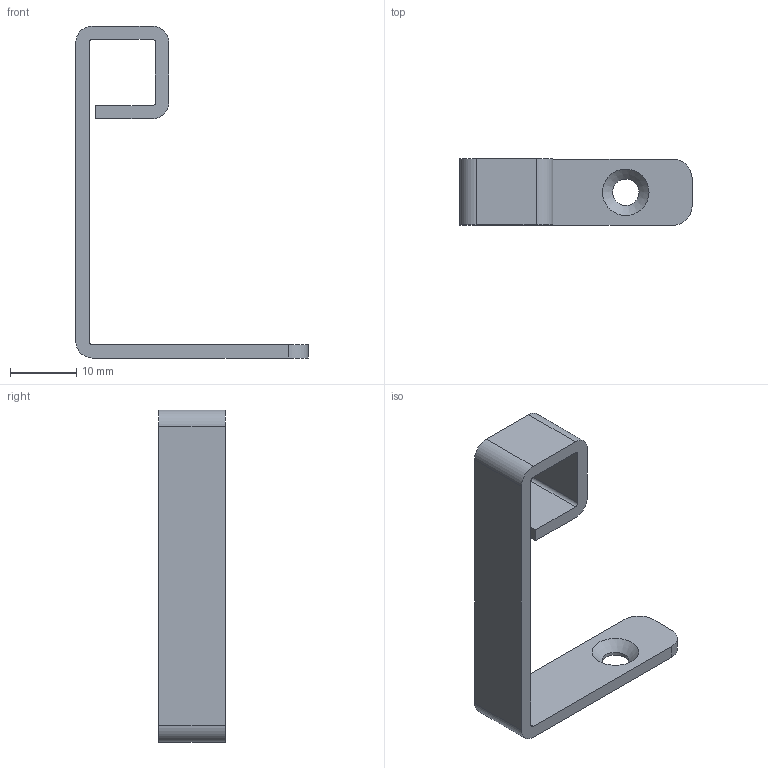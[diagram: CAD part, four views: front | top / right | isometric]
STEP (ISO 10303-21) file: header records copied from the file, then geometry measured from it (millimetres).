
FILE_DESCRIPTION(/* description */ ('K2ｽｸｴｱ転び止め(通し)'),/* implementation_level */ '2;1');
FILE_NAME(/* name */ 'Q503-C.step',/* time_stamp */ '2026-04-09T15:13:21+09:00',/* author */ (''),/* organization */ (''),/* preprocessor_version */ 'ST-DEVELOPER v20.1',/* originating_system */ 'Autodesk Translation Framework v14.24.0.0',/* authorisation */ '');
FILE_SCHEMA (('AUTOMOTIVE_DESIGN { 1 0 10303 214 3 1 1 }'));
Length unit declared in the file: millimetre
Products named in the file (1): 2026-03-25-13-45-46-037
Bounding box: 35 x 10 x 50 mm (x, y, z)
Volume: 2218 mm3; surface area: 2741.2 mm2
Topology: 1 solids, 1 shells, 26 faces, 71 edges, 47 vertices
Faces by surface type: plane 14, cylinder 11, cone 1
Full cylindrical faces by diameter (mm): 4 x1
Entity records: 975 total; most frequent: DIRECTION 148, CARTESIAN_POINT 145, ORIENTED_EDGE 142, EDGE_CURVE 71, AXIS2_PLACEMENT_3D 50, LINE 48, VECTOR 48, VERTEX_POINT 47
